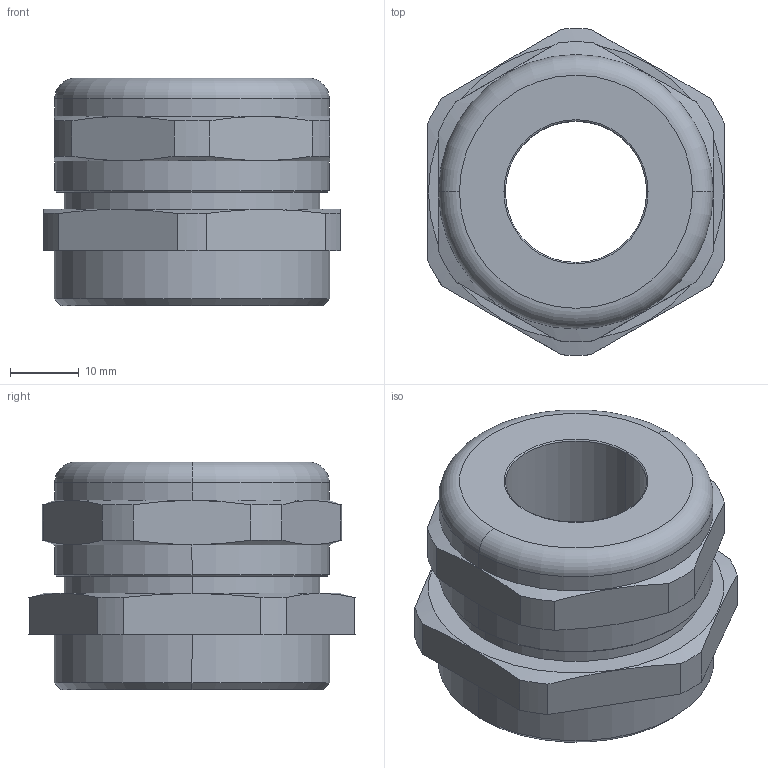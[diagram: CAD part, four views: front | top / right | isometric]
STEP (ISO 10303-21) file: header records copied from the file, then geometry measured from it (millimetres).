
FILE_DESCRIPTION (( 'STEP AP203' ), '1' );
FILE_NAME ('18M401721.STEP', '2006-08-17T09:12:39', ( ' ' ), ( '' ), 'SwSTEP 2.0', 'SolidWorks 2005278', '' );
FILE_SCHEMA (( 'CONFIG_CONTROL_DESIGN' ));
Length unit declared in the file: millimetre
Products named in the file (1): 18M401721
Bounding box: 43 x 47.38 x 33 mm (x, y, z)
Volume: 32292.6 mm3; surface area: 9136.3 mm2
Topology: 1 solids, 1 shells, 90 faces, 234 edges, 152 vertices
Faces by surface type: plane 54, cylinder 22, cone 10, torus 4
Entity records: 2929 total; most frequent: CARTESIAN_POINT 633, ORIENTED_EDGE 468, DIRECTION 450, EDGE_CURVE 234, VERTEX_POINT 152, VECTOR 152, LINE 152, AXIS2_PLACEMENT_3D 149
